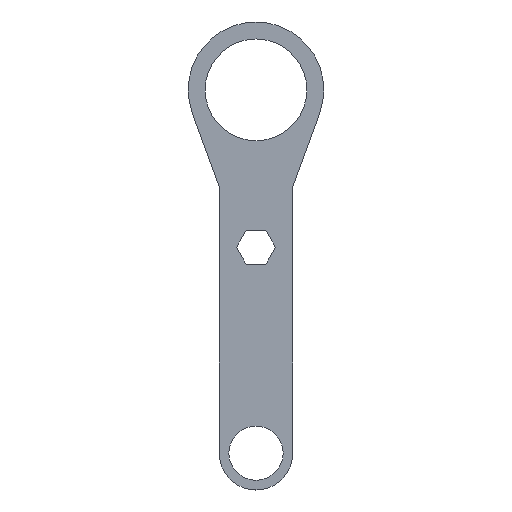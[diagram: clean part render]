
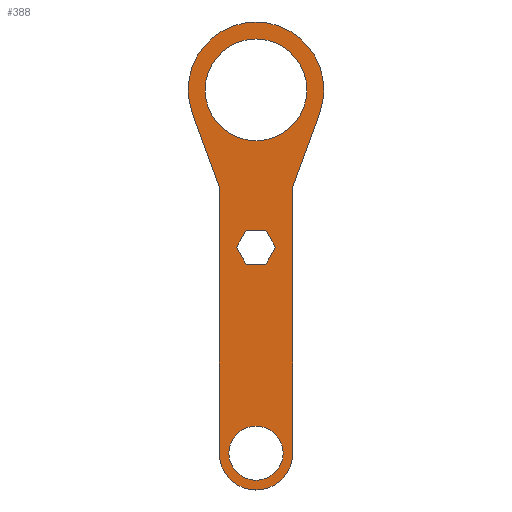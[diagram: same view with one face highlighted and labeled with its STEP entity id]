
A CAD part, top view. The second image highlights one B-rep face of the part: STEP entity #388.
In plain terms, the highlighted planar face has unit normal (0, 0, 1).
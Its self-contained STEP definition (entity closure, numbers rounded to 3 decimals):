
#13=CIRCLE('',#418,15.2);
#15=CIRCLE('',#423,28.);
#16=CIRCLE('',#425,21.);
#18=CIRCLE('',#429,11.2);
#52=ORIENTED_EDGE('',*,*,#150,.F.);
#53=ORIENTED_EDGE('',*,*,#151,.F.);
#54=ORIENTED_EDGE('',*,*,#152,.F.);
#55=ORIENTED_EDGE('',*,*,#153,.F.);
#56=ORIENTED_EDGE('',*,*,#154,.F.);
#57=ORIENTED_EDGE('',*,*,#155,.F.);
#58=ORIENTED_EDGE('',*,*,#130,.F.);
#59=ORIENTED_EDGE('',*,*,#134,.T.);
#60=ORIENTED_EDGE('',*,*,#137,.T.);
#61=ORIENTED_EDGE('',*,*,#140,.T.);
#62=ORIENTED_EDGE('',*,*,#143,.T.);
#63=ORIENTED_EDGE('',*,*,#147,.F.);
#64=ORIENTED_EDGE('',*,*,#144,.F.);
#65=ORIENTED_EDGE('',*,*,#148,.F.);
#130=EDGE_CURVE('',#182,#183,#216,.T.);
#134=EDGE_CURVE('',#182,#185,#13,.T.);
#137=EDGE_CURVE('',#185,#187,#221,.T.);
#140=EDGE_CURVE('',#187,#189,#224,.T.);
#143=EDGE_CURVE('',#189,#191,#15,.T.);
#144=EDGE_CURVE('',#192,#192,#16,.T.);
#147=EDGE_CURVE('',#183,#191,#227,.T.);
#148=EDGE_CURVE('',#194,#194,#18,.T.);
#150=EDGE_CURVE('',#196,#197,#228,.T.);
#151=EDGE_CURVE('',#198,#196,#229,.T.);
#152=EDGE_CURVE('',#199,#198,#230,.T.);
#153=EDGE_CURVE('',#200,#199,#231,.T.);
#154=EDGE_CURVE('',#201,#200,#232,.T.);
#155=EDGE_CURVE('',#197,#201,#233,.T.);
#182=VERTEX_POINT('',#557);
#183=VERTEX_POINT('',#559);
#185=VERTEX_POINT('',#565);
#187=VERTEX_POINT('',#571);
#189=VERTEX_POINT('',#577);
#191=VERTEX_POINT('',#583);
#192=VERTEX_POINT('',#587);
#194=VERTEX_POINT('',#595);
#196=VERTEX_POINT('',#600);
#197=VERTEX_POINT('',#601);
#198=VERTEX_POINT('',#603);
#199=VERTEX_POINT('',#605);
#200=VERTEX_POINT('',#607);
#201=VERTEX_POINT('',#609);
#216=LINE('',#558,#260);
#221=LINE('',#572,#265);
#224=LINE('',#578,#268);
#227=LINE('',#592,#271);
#228=LINE('',#599,#272);
#229=LINE('',#602,#273);
#230=LINE('',#604,#274);
#231=LINE('',#606,#275);
#232=LINE('',#608,#276);
#233=LINE('',#610,#277);
#260=VECTOR('',#451,1000.);
#265=VECTOR('',#464,1000.);
#268=VECTOR('',#469,1000.);
#271=VECTOR('',#486,1000.);
#272=VECTOR('',#495,1000.);
#273=VECTOR('',#496,1000.);
#274=VECTOR('',#497,1000.);
#275=VECTOR('',#498,1000.);
#276=VECTOR('',#499,1000.);
#277=VECTOR('',#500,1000.);
#312=EDGE_LOOP('',(#52,#53,#54,#55,#56,#57));
#313=EDGE_LOOP('',(#58,#59,#60,#61,#62,#63));
#314=EDGE_LOOP('',(#64));
#315=EDGE_LOOP('',(#65));
#342=FACE_BOUND('',#312,.T.);
#343=FACE_BOUND('',#313,.T.);
#344=FACE_BOUND('',#314,.T.);
#345=FACE_BOUND('',#315,.T.);
#366=PLANE('',#431);
#388=ADVANCED_FACE('',(#342,#343,#344,#345),#366,.T.);
#418=AXIS2_PLACEMENT_3D('',#566,#458,#459);
#423=AXIS2_PLACEMENT_3D('',#584,#475,#476);
#425=AXIS2_PLACEMENT_3D('',#586,#479,#480);
#429=AXIS2_PLACEMENT_3D('',#594,#489,#490);
#431=AXIS2_PLACEMENT_3D('',#598,#493,#494);
#451=DIRECTION('',(0.,1.,0.));
#458=DIRECTION('',(0.,0.,1.));
#459=DIRECTION('',(1.,0.,0.));
#464=DIRECTION('',(0.,1.,0.));
#469=DIRECTION('',(0.343,0.939,0.));
#475=DIRECTION('',(0.,0.,1.));
#476=DIRECTION('',(1.,0.,0.));
#479=DIRECTION('',(0.,0.,1.));
#480=DIRECTION('',(1.,0.,0.));
#486=DIRECTION('',(-0.343,0.939,0.));
#489=DIRECTION('',(0.,0.,1.));
#490=DIRECTION('',(1.,0.,0.));
#493=DIRECTION('',(0.,0.,1.));
#494=DIRECTION('',(1.,0.,0.));
#495=DIRECTION('',(0.5,0.866,0.));
#496=DIRECTION('',(1.,0.,0.));
#497=DIRECTION('',(0.5,-0.866,0.));
#498=DIRECTION('',(-0.5,-0.866,0.));
#499=DIRECTION('',(-1.,0.,0.));
#500=DIRECTION('',(-0.5,0.866,0.));
#557=CARTESIAN_POINT('',(-71.325,80.,86.75));
#558=CARTESIAN_POINT('',(-71.325,135.,86.75));
#559=CARTESIAN_POINT('',(-71.325,190.,86.75));
#565=CARTESIAN_POINT('',(-40.925,80.,86.75));
#566=CARTESIAN_POINT('',(-56.125,80.,86.75));
#571=CARTESIAN_POINT('',(-40.925,190.,86.75));
#572=CARTESIAN_POINT('',(-40.925,135.,86.75));
#577=CARTESIAN_POINT('',(-29.824,220.394,86.75));
#578=CARTESIAN_POINT('',(-35.375,205.197,86.75));
#583=CARTESIAN_POINT('',(-82.426,220.394,86.75));
#584=CARTESIAN_POINT('',(-56.125,230.,86.75));
#586=CARTESIAN_POINT('',(-56.125,230.,86.75));
#587=CARTESIAN_POINT('',(-35.125,230.,86.75));
#592=CARTESIAN_POINT('',(-76.875,205.197,86.75));
#594=CARTESIAN_POINT('',(-56.125,80.,86.75));
#595=CARTESIAN_POINT('',(-44.925,80.,86.75));
#598=CARTESIAN_POINT('',(-56.125,122.75,86.75));
#599=CARTESIAN_POINT('',(-68.358,129.813,86.75));
#600=CARTESIAN_POINT('',(-52.084,158.,86.75));
#601=CARTESIAN_POINT('',(-48.042,165.,86.75));
#602=CARTESIAN_POINT('',(-56.125,158.,86.75));
#603=CARTESIAN_POINT('',(-60.166,158.,86.75));
#604=CARTESIAN_POINT('',(-43.892,129.813,86.75));
#605=CARTESIAN_POINT('',(-64.208,165.,86.75));
#606=CARTESIAN_POINT('',(-80.482,136.813,86.75));
#607=CARTESIAN_POINT('',(-60.166,172.,86.75));
#608=CARTESIAN_POINT('',(-56.125,172.,86.75));
#609=CARTESIAN_POINT('',(-52.084,172.,86.75));
#610=CARTESIAN_POINT('',(-31.768,136.813,86.75));
